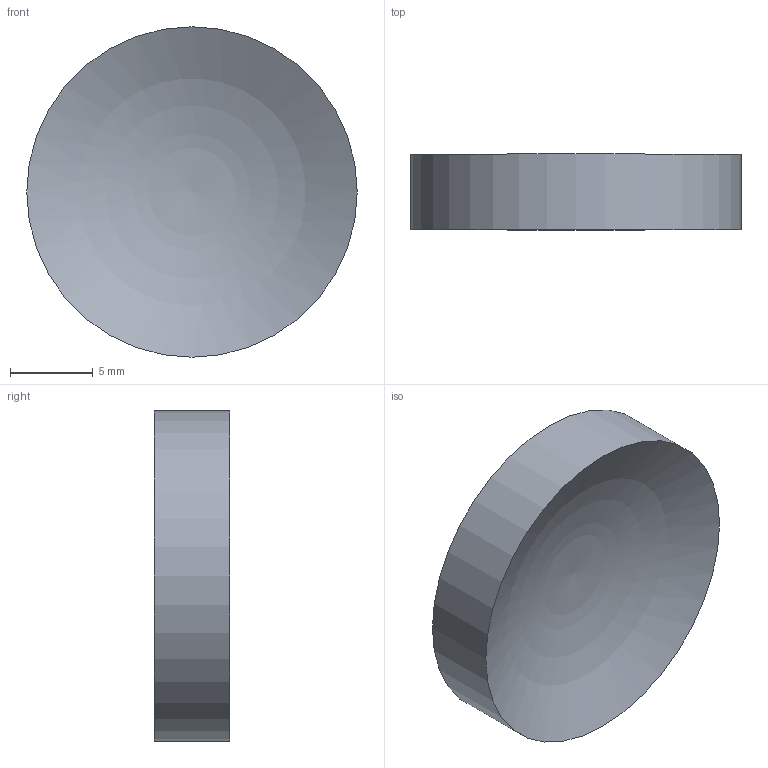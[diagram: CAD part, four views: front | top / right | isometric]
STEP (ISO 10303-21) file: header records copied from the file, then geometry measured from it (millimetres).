
FILE_DESCRIPTION((''),'2;1');
FILE_NAME('T:\Public\7_3次元データ\1図面ﾃﾞｰﾀ\7_素子\レンズ\3_球面平凹レンズ-BK7(SLB-N)\SLB-N\φ20\SLB-20-40N\SLB-20-40N.stp','2009-05-21T14:30:54',('okegawa'),(''),'Autodesk Inventor 2008','Autodesk Inventor 2008','');
FILE_SCHEMA(('AUTOMOTIVE_DESIGN { 1 0 10303 214 1 1 1 1 }'));
Length unit declared in the file: millimetre
Products named in the file (1): SLB-20-40N
Bounding box: 20 x 4.57 x 20 mm (x, y, z)
Volume: 1022.7 mm3; surface area: 936 mm2
Topology: 1 solids, 1 shells, 3 faces, 3 edges, 2 vertices
Faces by surface type: bspline 1, cylinder 1, plane 1
Full cylindrical faces by diameter (mm): 20 x1
Entity records: 84 total; most frequent: CARTESIAN_POINT 16, DIRECTION 10, AXIS2_PLACEMENT_3D 5, ORIENTED_EDGE 4, EDGE_LOOP 4, FACE_OUTER_BOUND 3, ADVANCED_FACE 3, DIMENSIONAL_EXPONENTS 2
